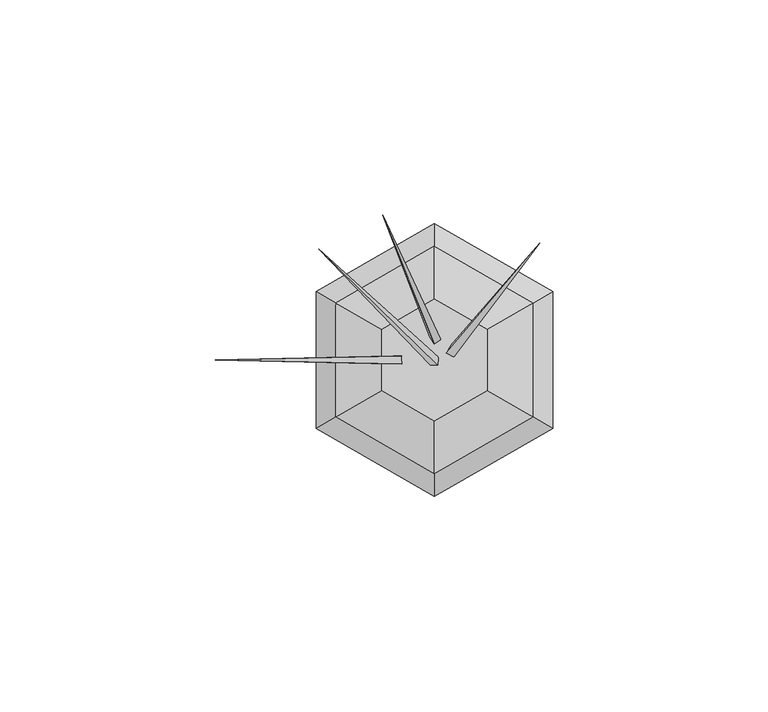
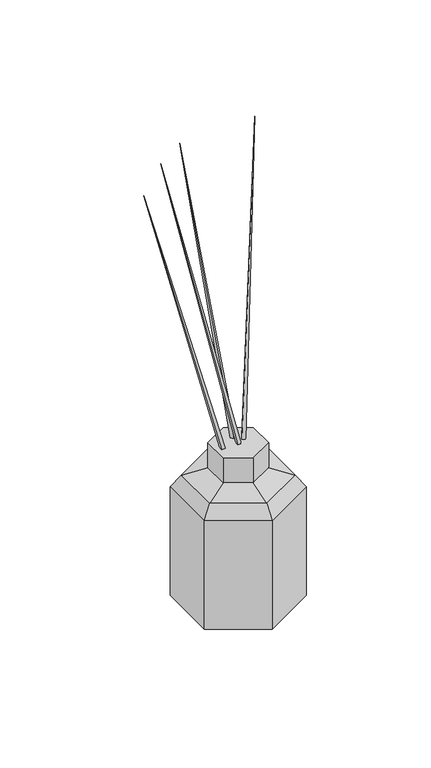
"""IFC4 building model written with IfcOpenShell, lengths in millimetres: geographic element geometry, Enscape AssetDefinition - Decorative Goods 030 Room Fragrance : Enscape AssetDefinition - Decorative Goods 030 Room Fragrance."""

from ifc_helpers import new_model, si_unit, origin, place, context, project, spatial, triangles, source, transform, mapped, element, save


def geographic_element_906ff1fe(model_context):
    return source(origin(), model_context, "Body", "Tessellation", [
        triangles([(-22.955001, 13.2529996, 68.4140018), (-22.955001, -13.2529996, 68.4140018), (-27.4769997, 15.8639992, 61.7579991), (0.0, -26.5069985, 68.4140018), (-27.4769997, -15.8639992, 61.7579991), (-12.2550001, 7.0750002, 72.6549993), (0.0, 14.1510008, 72.6549993), (-12.2550001, -7.0750002, 72.6549993), (-12.2550001, -7.0750002, 86.8119976), (-12.2550001, 7.0750002, 86.8119976), (0.0, -14.1510008, 72.6549993), (0.0, -14.1510008, 86.8119976), (-7.5730002, -0.938, 86.8119976), (-9.5159997, -0.938, 86.8119976), (0.878, -1.3099999, 86.8119976), (-1.026, -1.172, 86.8119976), (-50.9189986, 0.0, 244.9549973), (-7.5730002, 0.938, 86.8119976), (-7.5730002, -0.303, 86.8119976), (-26.8799999, 25.7180001, 239.122995), (-0.971, 0.096, 86.8119976), (-9.5159997, 0.938, 86.8119976), (0.0, 14.1510008, 86.8119976), (-1.13, 5.2829999, 86.8119976), (-0.078, 3.685, 86.8119976), (-0.944, 0.727, 86.8119976), (0.96, 0.589, 86.8119976), (0.329, 0.635, 86.8119976), (1.483, 4.729, 86.8119976), (2.791, 1.565, 86.8119976), (-12.0249996, 33.6400002, 240.8239995), (0.431, 6.3270001, 86.8119976), (3.711, 3.2429999, 86.8119976), (5.3639997, 2.352, 86.8119976), (12.2550001, 7.0750002, 86.8119976), (24.5089986, 27.1680001, 247.3780144), (4.444, 0.674, 86.8119976), (12.2550001, -7.0750002, 86.8119976), (12.2550001, 7.0750002, 72.6549993), (12.2550001, -7.0750002, 72.6549993), (22.955001, 13.2529996, 68.4140018), (0.0, 26.5069985, 68.4140018), (0.0, 31.7279984, 61.7579991), (27.4769997, 15.8639992, 61.7579991), (27.4769997, 15.8639992, 0.0), (22.955001, -13.2529996, 68.4140018), (27.4769997, -15.8639992, 61.7579991), (27.4769997, -15.8639992, 0.0), (0.0, -31.7279984, 61.7579991), (0.0, 31.7279984, 0.0), (-27.4769997, 15.8639992, 0.0), (-27.4769997, -15.8639992, 0.0), (0.0, -31.7279984, 0.0)], [[53, 49, 5], [4, 5, 49], [48, 49, 53], [48, 53, 52], [53, 5, 52], [52, 5, 3], [48, 52, 51], [52, 3, 51], [48, 51, 50], [50, 45, 48], [4, 49, 47], [48, 47, 49], [45, 47, 48], [4, 47, 46], [46, 47, 44], [45, 44, 47], [50, 44, 45], [50, 43, 44], [51, 3, 43], [51, 43, 50], [42, 43, 3], [41, 44, 43], [41, 43, 42], [46, 44, 41], [41, 40, 46], [41, 42, 7], [41, 39, 40], [41, 7, 39], [39, 38, 40], [39, 35, 38], [7, 23, 35], [7, 35, 39], [38, 35, 34], [34, 36, 37], [34, 37, 38], [37, 15, 38], [37, 36, 30], [37, 30, 15], [30, 27, 15], [36, 33, 30], [36, 34, 33], [33, 34, 35], [35, 23, 32], [32, 33, 35], [32, 29, 33], [30, 33, 29], [32, 31, 29], [31, 25, 29], [29, 25, 30], [30, 25, 27], [25, 28, 27], [20, 27, 28], [27, 20, 15], [20, 28, 26], [28, 25, 26], [31, 24, 25], [31, 32, 24], [23, 24, 32], [25, 24, 26], [23, 10, 24], [10, 18, 24], [18, 26, 24], [10, 22, 18], [20, 26, 21], [21, 26, 18], [21, 16, 20], [20, 16, 15], [19, 21, 18], [16, 21, 19], [19, 18, 17], [17, 18, 22], [17, 22, 14], [10, 14, 22], [17, 13, 19], [17, 14, 13], [16, 19, 13], [40, 38, 12], [16, 13, 12], [15, 16, 12], [12, 38, 15], [13, 14, 9], [9, 12, 13], [10, 9, 14], [11, 12, 9], [46, 40, 11], [46, 11, 4], [40, 12, 11], [8, 9, 10], [4, 11, 8], [11, 9, 8], [6, 10, 23], [8, 10, 6], [6, 23, 7], [4, 2, 5], [2, 8, 6], [4, 8, 2], [1, 6, 7], [1, 3, 5], [1, 7, 42], [2, 6, 1], [42, 3, 1], [1, 5, 2]]),
    ])


if __name__ == "__main__":
    model = new_model("IFC4")
    model_context = context("Model", 3, world=origin())
    ifc_project = project(units=[si_unit("LENGTHUNIT", "METRE", prefix="MILLI")], contexts=[model_context])
    site = spatial("IfcSite", under=ifc_project)
    building = spatial("IfcBuilding", under=site)
    placement = place(None, origin())
    geographic_element_shape = geographic_element_906ff1fe(model_context)
    element("IfcGeographicElement", 1, ObjectType="Enscape AssetDefinition - Decorative Goods 030 Room Fragrance : Enscape AssetDefinition - Decorative Goods 030 Room Fragrance", at=placement, inside=building, context=model_context, shape_type="MappedRepresentation", body=[
        mapped(geographic_element_shape, transform((0.0, 0.0, 0.0), x_axis=(1.0, 0.0, 0.0), y_axis=(0.0, 1.0, 0.0), z_axis=(0.0, 0.0, 1.0))),
    ])
    save(model, "model.ifc")
